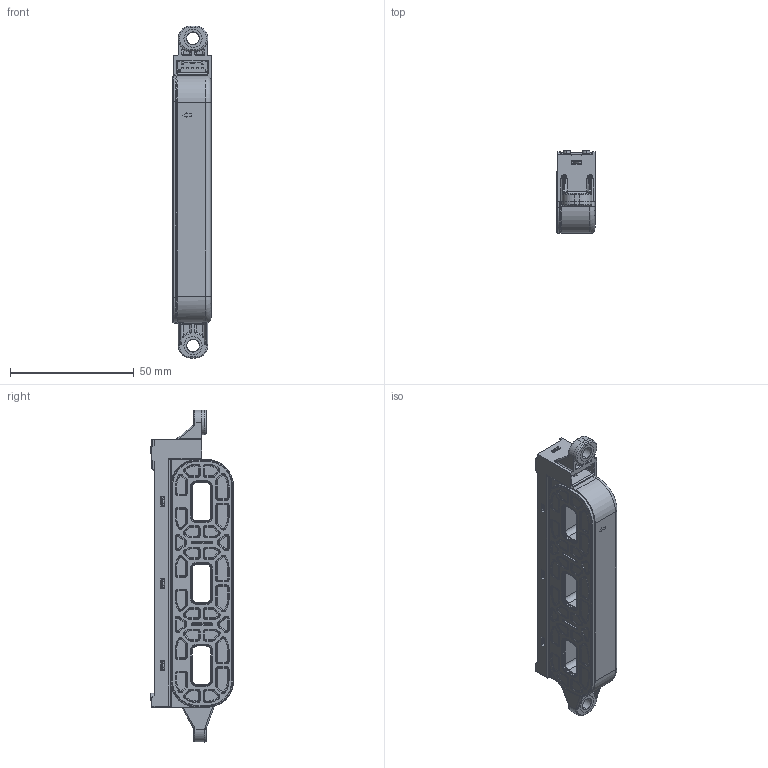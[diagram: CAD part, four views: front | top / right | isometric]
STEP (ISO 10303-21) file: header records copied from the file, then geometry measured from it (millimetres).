
FILE_DESCRIPTION(('Creo Elements/Direct Modeling STEP Export'),'2;1');
FILE_NAME('HAH3DRS03&S0E_20190124.stp','2019-01-24T14:53:31',(''),(''),'Creo Elements/Direct Modeling STEP processor for AP214 (Solid Model)','Creo Elements/Direct Modeling 20.1 10-Mar-2018 (C) Parametric Technology GmbH','');
FILE_SCHEMA(('AUTOMOTIVE_DESIGN { 1 0 10303 214 1 1 1 1 }'));
Length unit declared in the file: millimetre
Products named in the file (2): Housing_S03_S0E; HAH3DR_S0E
Assembly tree (1 placements, depth 2):
  HAH3DR_S0E
    Housing_S03_S0E
Bounding box: 15.5 x 33.6 x 134 mm (x, y, z)
Volume: 22200.3 mm3; surface area: 32161.7 mm2
Topology: 1 solids, 7 shells, 5809 faces, 14998 edges, 9303 vertices
Faces by surface type: plane 2761, bspline 1320, cylinder 1144, cone 243, torus 208, extrusion 103, sphere 30
Entity records: 299251 total; most frequent: CARTESIAN_POINT 171266, ORIENTED_EDGE 29918, DIRECTION 21331, EDGE_CURVE 14959, VERTEX_POINT 9303, VECTOR 8437, LINE 8343, AXIS2_PLACEMENT_3D 6447
